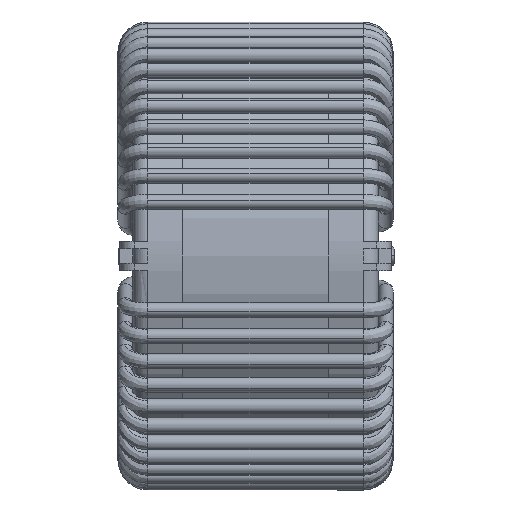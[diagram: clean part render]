
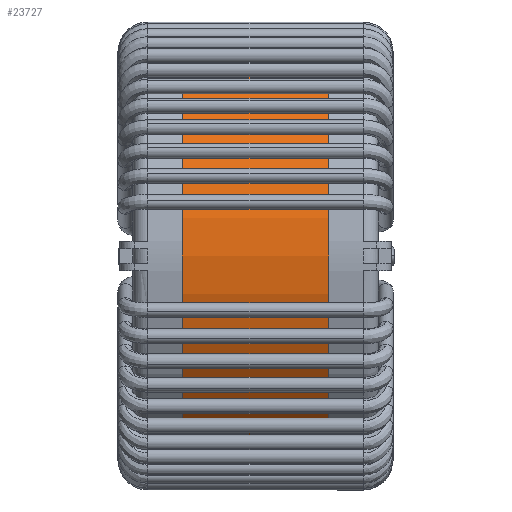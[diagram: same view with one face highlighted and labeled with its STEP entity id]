
A CAD part, left-side view. The second image highlights one B-rep face of the part: STEP entity #23727.
In plain terms, the highlighted cylindrical face has radius 15.055 mm (diameter 30.11 mm), a partial arc.
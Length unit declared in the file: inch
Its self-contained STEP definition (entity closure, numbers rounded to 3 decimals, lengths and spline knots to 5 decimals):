
#886 = DIRECTION ( 'NONE',  ( 0., 0., 1. ) ) ;
#2389 = CARTESIAN_POINT ( 'NONE',  ( 0., 0.19685, -0.59272 ) ) ;
#2816 = VECTOR ( 'NONE', #14565, 39.37008 ) ;
#4607 = DIRECTION ( 'NONE',  ( 0., 0., 1. ) ) ;
#4623 = CARTESIAN_POINT ( 'NONE',  ( 0., -0.19685, -0.59272 ) ) ;
#6121 = DIRECTION ( 'NONE',  ( 0., 0., -1. ) ) ;
#7058 = ORIENTED_EDGE ( 'NONE', *, *, #47619, .T. ) ;
#9109 = CARTESIAN_POINT ( 'NONE',  ( 0., 0.19685, 0.59272 ) ) ;
#10240 = AXIS2_PLACEMENT_3D ( 'NONE', #26420, #10321, #4607 ) ;
#10321 = DIRECTION ( 'NONE',  ( 0., 1., 0. ) ) ;
#11434 = DIRECTION ( 'NONE',  ( 0., 1., 0. ) ) ;
#12600 = CIRCLE ( 'NONE', #10240, 0.59272 ) ;
#13032 = CARTESIAN_POINT ( 'NONE',  ( 0., 0.19685, 0. ) ) ;
#14565 = DIRECTION ( 'NONE',  ( 0., -1., 0. ) ) ;
#15184 = ORIENTED_EDGE ( 'NONE', *, *, #42207, .T. ) ;
#18304 = CIRCLE ( 'NONE', #28427, 0.59272 ) ;
#19274 = VERTEX_POINT ( 'NONE', #39659 ) ;
#21356 = VERTEX_POINT ( 'NONE', #4623 ) ;
#21511 = CYLINDRICAL_SURFACE ( 'NONE', #29278, 0.59272 ) ;
#23420 = VERTEX_POINT ( 'NONE', #9109 ) ;
#23727 = ADVANCED_FACE ( 'NONE', ( #42347 ), #21511, .T. ) ;
#23759 = CARTESIAN_POINT ( 'NONE',  ( 0., 0.19685, -0.59272 ) ) ;
#24996 = DIRECTION ( 'NONE',  ( 0., -1., 0. ) ) ;
#26420 = CARTESIAN_POINT ( 'NONE',  ( 0., -0.19685, 0. ) ) ;
#26884 = VERTEX_POINT ( 'NONE', #23759 ) ;
#27839 = EDGE_CURVE ( 'NONE', #23420, #19274, #37012, .T. ) ;
#27878 = ORIENTED_EDGE ( 'NONE', *, *, #31083, .F. ) ;
#27915 = DIRECTION ( 'NONE',  ( 0., -1., 0. ) ) ;
#28427 = AXIS2_PLACEMENT_3D ( 'NONE', #13032, #11434, #886 ) ;
#29022 = LINE ( 'NONE', #2389, #2816 ) ;
#29278 = AXIS2_PLACEMENT_3D ( 'NONE', #49667, #27915, #6121 ) ;
#31083 = EDGE_CURVE ( 'NONE', #26884, #23420, #18304, .T. ) ;
#37012 = LINE ( 'NONE', #45816, #41147 ) ;
#39659 = CARTESIAN_POINT ( 'NONE',  ( 0., -0.19685, 0.59272 ) ) ;
#41147 = VECTOR ( 'NONE', #24996, 39.37008 ) ;
#42207 = EDGE_CURVE ( 'NONE', #26884, #21356, #29022, .T. ) ;
#42347 = FACE_OUTER_BOUND ( 'NONE', #44642, .T. ) ;
#44642 = EDGE_LOOP ( 'NONE', ( #45676, #27878, #15184, #7058 ) ) ;
#45676 = ORIENTED_EDGE ( 'NONE', *, *, #27839, .F. ) ;
#45816 = CARTESIAN_POINT ( 'NONE',  ( 0., 0.19685, 0.59272 ) ) ;
#47619 = EDGE_CURVE ( 'NONE', #21356, #19274, #12600, .T. ) ;
#49667 = CARTESIAN_POINT ( 'NONE',  ( 0., 0.19685, 0. ) ) ;
